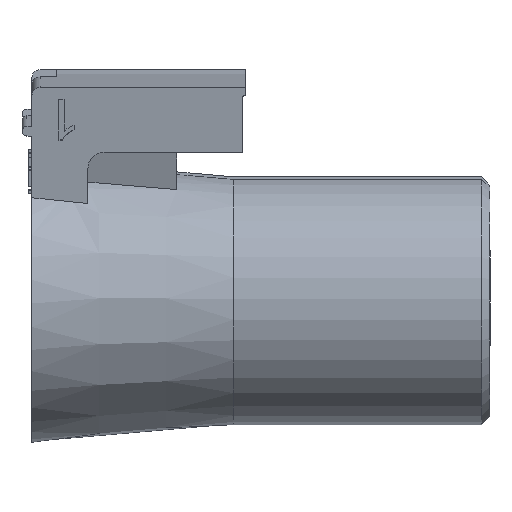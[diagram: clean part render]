
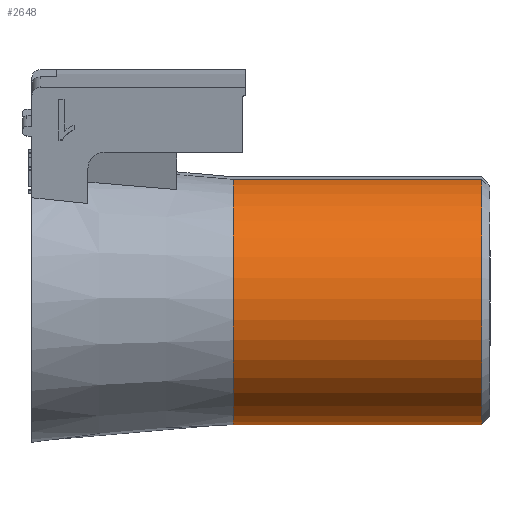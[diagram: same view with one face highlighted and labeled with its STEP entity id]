
A CAD part, front view. The second image highlights one B-rep face of the part: STEP entity #2648.
In plain terms, the highlighted cylindrical face has radius 7.5 mm (diameter 15 mm), a partial arc.
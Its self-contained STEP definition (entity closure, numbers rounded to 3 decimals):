
#42=CYLINDRICAL_SURFACE('',#2812,7.5);
#79=CIRCLE('',#2792,7.5);
#87=CIRCLE('',#2811,7.5);
#388=FACE_OUTER_BOUND('',#538,.T.);
#538=EDGE_LOOP('',(#2307,#2308,#2309,#2310));
#746=LINE('',#4451,#994);
#791=LINE('',#4583,#1039);
#994=VECTOR('',#3202,10.);
#1039=VECTOR('',#3319,10.);
#1254=VERTEX_POINT('',#4448);
#1255=VERTEX_POINT('',#4450);
#1281=VERTEX_POINT('',#4520);
#1296=VERTEX_POINT('',#4578);
#1591=EDGE_CURVE('',#1255,#1254,#746,.T.);
#1627=EDGE_CURVE('',#1281,#1254,#79,.T.);
#1654=EDGE_CURVE('',#1255,#1296,#87,.T.);
#1655=EDGE_CURVE('',#1296,#1281,#791,.T.);
#2307=ORIENTED_EDGE('',*,*,#1655,.F.);
#2308=ORIENTED_EDGE('',*,*,#1654,.F.);
#2309=ORIENTED_EDGE('',*,*,#1591,.T.);
#2310=ORIENTED_EDGE('',*,*,#1627,.F.);
#2648=ADVANCED_FACE('',(#388),#42,.T.);
#2792=AXIS2_PLACEMENT_3D('',#4525,#3261,#3262);
#2811=AXIS2_PLACEMENT_3D('',#4581,#3315,#3316);
#2812=AXIS2_PLACEMENT_3D('',#4582,#3317,#3318);
#3202=DIRECTION('',(-1.,0.,0.));
#3261=DIRECTION('center_axis',(-1.,0.,0.));
#3262=DIRECTION('ref_axis',(0.,-0.985,-0.174));
#3315=DIRECTION('center_axis',(1.,0.,0.));
#3316=DIRECTION('ref_axis',(0.,0.985,0.174));
#3317=DIRECTION('center_axis',(-1.,0.,0.));
#3318=DIRECTION('ref_axis',(0.,-0.985,-0.174));
#3319=DIRECTION('',(-1.,0.,0.));
#4448=CARTESIAN_POINT('',(11.43,-1.893,7.334));
#4450=CARTESIAN_POINT('',(26.5,-1.893,7.334));
#4451=CARTESIAN_POINT('',(19.215,-1.893,7.334));
#4520=CARTESIAN_POINT('',(11.43,0.358,-7.491));
#4525=CARTESIAN_POINT('Origin',(11.43,-0.59,-0.052));
#4578=CARTESIAN_POINT('',(26.5,0.358,-7.491));
#4581=CARTESIAN_POINT('Origin',(26.5,-0.59,-0.052));
#4582=CARTESIAN_POINT('Origin',(19.215,-0.59,-0.052));
#4583=CARTESIAN_POINT('',(19.215,0.358,-7.491));
